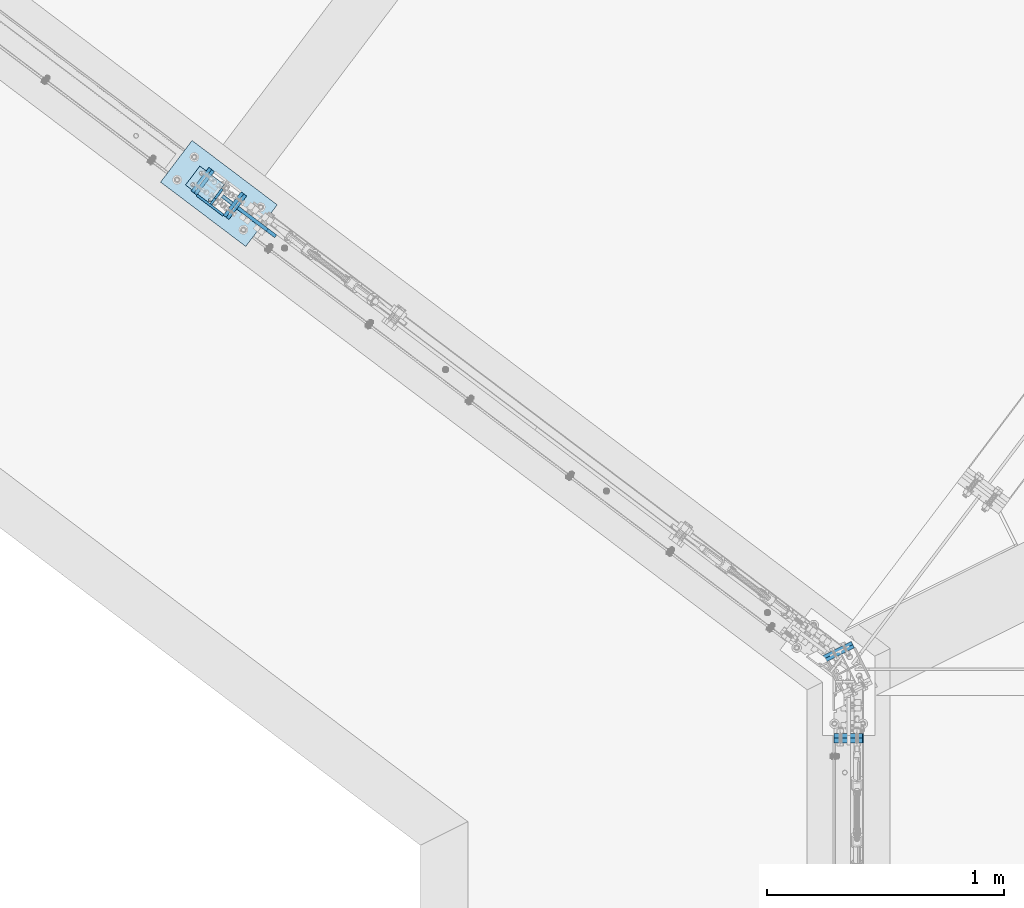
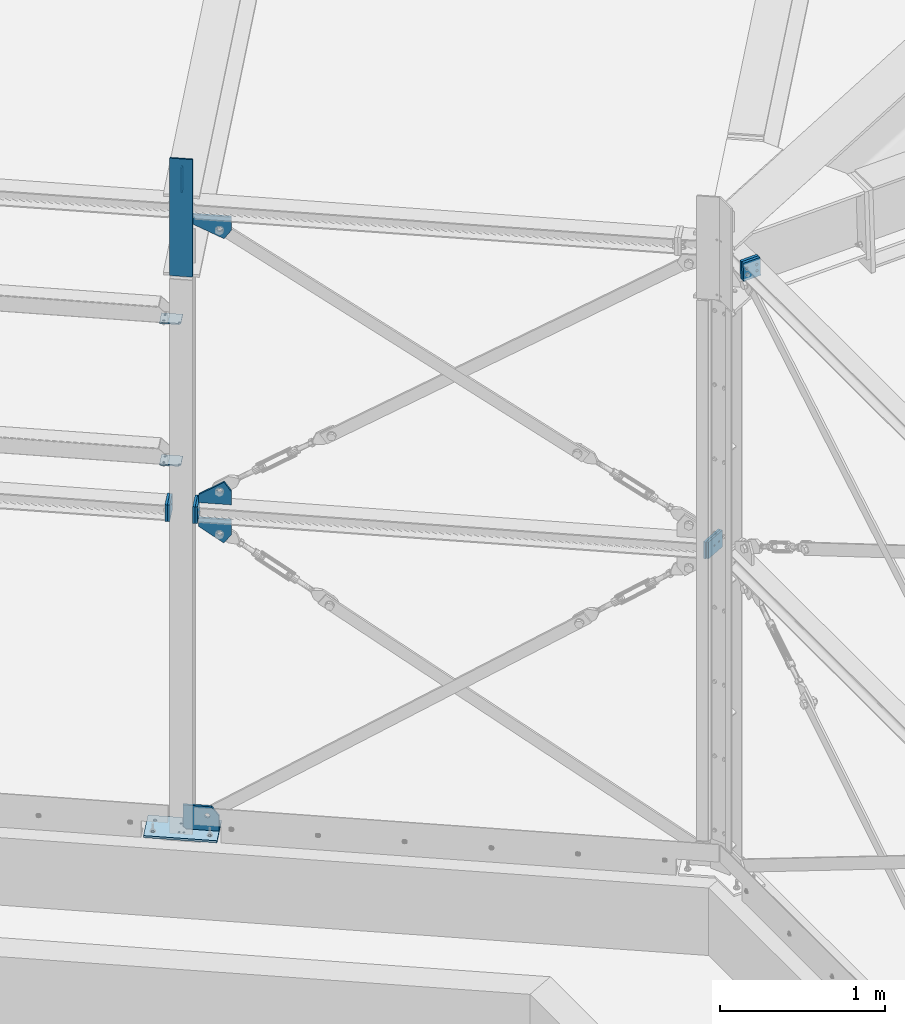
# One storey, part 49 of 476: 17 plates, 55 openings.
"""IFC2X3 building model written with IfcOpenShell, lengths in millimetres."""

import ifcopenshell
import ifcopenshell.guid

model = None  # the IFC model being written
_history = None  # IfcOwnerHistory: only IFC2X3 demands one
_inside = {}  # id of a spatial element -> (the spatial element, [elements in it])
_under = {}  # id of a project, library or spatial element -> (it, [spatial elements below it])
_declared = {}  # id of a project -> (the project, [libraries it declares])
_typed = {}  # id of a type object -> (the type object, [elements of that type])
_made_of = {}  # id of a material, layer set ... -> (it, [elements and type objects made of it])


def new_model(schema):
    """Start an empty IFC model of exactly this schema.

    Asked for "IFC4X3", IfcOpenShell would pick the latest addendum, in which some entities
    have other attributes; the version numbers below select the first issue.
    IFC2X3 requires an IfcOwnerHistory on every rooted entity: one is made here for all.
    """
    global model, _history
    if schema == "IFC4X3":
        model = ifcopenshell.file(schema_version=(4, 3, 0, 0))
    else:
        model = ifcopenshell.file(schema=schema)
    _inside.clear()
    _under.clear()
    _declared.clear()
    _typed.clear()
    _made_of.clear()
    _history = None
    if model.schema == "IFC2X3":
        org = make("IfcOrganization", Name="unknown")
        user = make(
            "IfcPersonAndOrganization",
            ThePerson=make("IfcPerson", FamilyName="unknown"),
            TheOrganization=org,
        )
        app = make(
            "IfcApplication",
            ApplicationDeveloper=org,
            Version="unknown",
            ApplicationFullName="unknown",
            ApplicationIdentifier="unknown",
        )
        _history = make(
            "IfcOwnerHistory",
            OwningUser=user,
            OwningApplication=app,
            ChangeAction="ADDED",
            CreationDate=0,
        )
    return model


def make(cls, **values):
    """One entity of the class cls with the attributes given. An attribute that is None is left unset."""
    return model.create_entity(
        cls, **{name: value for name, value in values.items() if value is not None}
    )


def entity(cls, *values):
    """Any entity or typed value of the class cls, its attributes in the order of the schema. None: left unset."""
    e = model.create_entity(cls)
    for i, value in enumerate(values):
        if value is not None:
            e[i] = value
    return e


def rooted(cls, **values):
    """An entity with a GlobalId (a new one), such as an element, a storey or a relation."""
    return make(cls, GlobalId=ifcopenshell.guid.new(), OwnerHistory=_history, **values)


def si_unit(unit_type, name, prefix=None):
    """IfcSIUnit, for example si_unit("LENGTHUNIT", "METRE", prefix="MILLI")."""
    return make("IfcSIUnit", UnitType=unit_type, Prefix=prefix, Name=name)


def converted_unit(unit_type, name, factor, base, dimensions=None, offset=None):
    """IfcConversionBasedUnit, such as the inch: factor (a typed value) times the base unit."""
    return make(
        "IfcConversionBasedUnit"
        if offset is None
        else "IfcConversionBasedUnitWithOffset",
        ConversionOffset=offset,
        Dimensions=None
        if dimensions is None
        else entity("IfcDimensionalExponents", *dimensions),
        UnitType=unit_type,
        Name=name,
        ConversionFactor=make(
            "IfcMeasureWithUnit", ValueComponent=factor, UnitComponent=base
        ),
    )


def assignment(units):
    """IfcUnitAssignment: the units of a project."""
    return None if units is None else make("IfcUnitAssignment", Units=units)


def point(xyz):
    """IfcCartesianPoint."""
    return None if xyz is None else make("IfcCartesianPoint", Coordinates=xyz)


def direction(xyz):
    """IfcDirection."""
    return None if xyz is None else make("IfcDirection", DirectionRatios=xyz)


def frame(location, z_axis=None, x_axis=None):
    """IfcAxis2Placement3D, a coordinate frame: its origin and axes. An axis left out is left unset."""
    return make(
        "IfcAxis2Placement3D",
        Location=point(location),
        Axis=direction(z_axis),
        RefDirection=direction(x_axis),
    )


def frame_2d(location, x_axis=None):
    """IfcAxis2Placement2D, a coordinate frame in the plane: its origin and x axis."""
    return make(
        "IfcAxis2Placement2D", Location=point(location), RefDirection=direction(x_axis)
    )


def origin():
    """The frame at (0, 0, 0) with its axes left unset."""
    return frame((0.0, 0.0, 0.0))


def origin_with_axes():
    """The frame at (0, 0, 0) with the z axis (0, 0, 1) and the x axis (1, 0, 0) written out."""
    return frame((0.0, 0.0, 0.0), z_axis=(0.0, 0.0, 1.0), x_axis=(1.0, 0.0, 0.0))


def origin_2d_with_axis():
    """The frame at (0, 0) in the plane with the x axis (1, 0) written out."""
    return frame_2d((0.0, 0.0), x_axis=(1.0, 0.0))


def place(relative_to, where):
    """IfcLocalPlacement: puts the frame where relative to a parent placement (None: the world)."""
    return make(
        "IfcLocalPlacement", PlacementRelTo=relative_to, RelativePlacement=where
    )


def context(
    kind, dimensions, precision=None, world=None, true_north=None, identifier=None
):
    """IfcGeometricRepresentationContext, for example the 3D "Model" context."""
    return make(
        "IfcGeometricRepresentationContext",
        ContextIdentifier=identifier,
        ContextType=kind,
        CoordinateSpaceDimension=dimensions,
        Precision=precision,
        WorldCoordinateSystem=world,
        TrueNorth=true_north,
    )


def project(units=None, contexts=None):
    """IfcProject with its units and contexts."""
    return rooted(
        "IfcProject",
        Name="project",
        RepresentationContexts=contexts,
        UnitsInContext=assignment(units),
    )


def spatial(cls, under=None, at=None, **own):
    """A site, building, storey or space (cls), placed at a placement, below another one or the project."""
    s = rooted(cls, ObjectPlacement=at, **own)
    if under is not None:
        _under.setdefault(under.id(), (under, []))[1].append(s)
    return s


def polyline(points):
    """IfcPolyline through the points."""
    return make("IfcPolyline", Points=[point(p) for p in points])


def circle_curve(where, radius):
    """IfcCircle in the frame where."""
    return make("IfcCircle", Position=where, Radius=radius)


def line_curve(start, along, magnitude):
    """IfcLine from a point along a vector."""
    return make(
        "IfcLine",
        Pnt=point(start),
        Dir=make("IfcVector", Orientation=direction(along), Magnitude=magnitude),
    )


def trimmed(basis, trim1, trim2, sense, master):
    """IfcTrimmedCurve: the piece of a basis curve between two trims."""
    return make(
        "IfcTrimmedCurve",
        BasisCurve=basis,
        Trim1=trim1,
        Trim2=trim2,
        SenseAgreement=sense,
        MasterRepresentation=master,
    )


def segment(curve, same_sense, transition):
    """IfcCompositeCurveSegment."""
    return make(
        "IfcCompositeCurveSegment",
        Transition=transition,
        SameSense=same_sense,
        ParentCurve=curve,
    )


def composite_curve(segments, self_intersect=None):
    """IfcCompositeCurve: segments joined end to end."""
    return make("IfcCompositeCurve", Segments=segments, SelfIntersect=self_intersect)


def profile(cls, at=None, kind="AREA", **sizes):
    """A parametric profile (cls). Its sizes go by their IFC names, for example OverallWidth=200.0."""
    return make(cls, ProfileType=kind, Position=at, **sizes)


def circle(**sizes):
    """IfcCircleProfileDef."""
    return profile("IfcCircleProfileDef", **sizes)


def outline(outer, holes=None, kind="AREA"):
    """IfcArbitraryClosedProfileDef: a profile drawn as a closed curve; with holes, ...WithVoids."""
    if holes is None:
        return make("IfcArbitraryClosedProfileDef", ProfileType=kind, OuterCurve=outer)
    return make(
        "IfcArbitraryProfileDefWithVoids",
        ProfileType=kind,
        OuterCurve=outer,
        InnerCurves=holes,
    )


def extrude(swept, where, along, depth):
    """IfcExtrudedAreaSolid: the profile swept, set in the frame where, extruded along a direction by depth."""
    return make(
        "IfcExtrudedAreaSolid",
        SweptArea=swept,
        Position=where,
        ExtrudedDirection=direction(along),
        Depth=depth,
    )


def shape(context_of_items, identifier, shape_type, items):
    """IfcShapeRepresentation: the items that make up one representation, for example the "Body"."""
    return make(
        "IfcShapeRepresentation",
        ContextOfItems=context_of_items,
        RepresentationIdentifier=identifier,
        RepresentationType=shape_type,
        Items=items,
    )


def material(Name=None, Category=None):
    """IfcMaterial."""
    return make("IfcMaterial", Name=Name, Category=Category)


def layer(
    of_material, thickness, ventilated=None, Name=None, Category=None, Priority=None
):
    """IfcMaterialLayer: one layer of a wall or slab, of a material (None: an air gap)."""
    return make(
        "IfcMaterialLayer",
        Material=of_material,
        LayerThickness=thickness,
        IsVentilated=ventilated,
        Name=Name,
        Category=Category,
        Priority=Priority,
    )


def layer_set(layers, Name=None):
    """IfcMaterialLayerSet."""
    return make("IfcMaterialLayerSet", MaterialLayers=layers, LayerSetName=Name)


def made_of(thing, what):
    """Note that an element or type object is made of a material, layer set ...; save() writes the relation."""
    if what is not None:
        _made_of.setdefault(what.id(), (what, []))[1].append(thing)
    return thing


def element(
    cls,
    number,
    at=None,
    inside=None,
    cuts=None,
    type_object=None,
    material=None,
    context=None,
    identifier="Body",
    shape_type=None,
    held_by="IfcProductDefinitionShape",
    body=None,
    shapes=None,
    **own,
):
    """One element of the class cls, such as IfcWall. Its Tag is "e" and its number.

    at: its placement. inside: the storey or other place that contains it. cuts: it is an
    opening in that element (IfcRelVoidsElement). A single representation is given by context,
    identifier, shape_type and body (its items); several are given by shapes. held_by: the class
    of the entity that holds the representations. save() writes the other relations.
    """
    e = rooted(cls, Tag="e%d" % number, ObjectPlacement=at, **own)
    if body is not None:
        shapes = [shape(context, identifier, shape_type, body)]
    if shapes is not None:
        e.Representation = make(held_by, Representations=shapes)
    if inside is not None:
        _inside.setdefault(inside.id(), (inside, []))[1].append(e)
    if cuts is not None:
        rooted(
            "IfcRelVoidsElement", RelatingBuildingElement=cuts, RelatedOpeningElement=e
        )
    if type_object is not None:
        _typed.setdefault(type_object.id(), (type_object, []))[1].append(e)
    return made_of(e, material)


def aggregate(whole, parts):
    """IfcRelAggregates: a whole, such as a stair, and the parts it consists of."""
    return rooted("IfcRelAggregates", RelatingObject=whole, RelatedObjects=parts)


def save(model, path):
    """Write the relations noted so far, then the file.

    IfcRelAggregates (storeys below a building ...), IfcRelContainedInSpatialStructure (elements
    in a storey), IfcRelDefinesByType, IfcRelAssociatesMaterial and IfcRelDeclares: one each for
    every whole, place, type object, material and project.
    """
    for whole, parts in _under.values():
        aggregate(whole, parts)
    for where, things in _inside.values():
        rooted(
            "IfcRelContainedInSpatialStructure",
            RelatedElements=things,
            RelatingStructure=where,
        )
    for kind, things in _typed.values():
        rooted("IfcRelDefinesByType", RelatedObjects=things, RelatingType=kind)
    for what, things in _made_of.values():
        rooted("IfcRelAssociatesMaterial", RelatedObjects=things, RelatingMaterial=what)
    for by, libraries in _declared.values():
        rooted("IfcRelDeclares", RelatingContext=by, RelatedDefinitions=libraries)
    model.write(path)


model = new_model("IFC2X3")

# Units and contexts
model_context = context("Model", 3, precision=1e-09, world=origin_with_axes())
ifc_project = project(units=[si_unit("LENGTHUNIT", "METRE", prefix="MILLI"), si_unit("AREAUNIT", "SQUARE_METRE"), si_unit("VOLUMEUNIT", "CUBIC_METRE"), converted_unit("PLANEANGLEUNIT", "DEGREE", entity("IfcPlaneAngleMeasure", 0.01745329), si_unit("PLANEANGLEUNIT", "RADIAN"), dimensions=[0, 0, 0, 0, 0, 0, 0])], contexts=[model_context])

# Site, building, storey
site_placement = place(None, origin_with_axes())
site = spatial("IfcSite", under=ifc_project, at=site_placement, Name="mKR Teilneubau & Sanierung BA1 - Ostfildern", CompositionType="ELEMENT")
building_placement = place(site_placement, origin_with_axes())
building = spatial("IfcBuilding", under=site, at=building_placement, Name="Struktur 1", CompositionType="ELEMENT")
storey_placement = place(building_placement, origin_with_axes())
storey = spatial("IfcBuildingStorey", under=building, at=storey_placement, Name="Default Storey", CompositionType="ELEMENT", Elevation=0.0)

# Plate, openings
ifc_material = material(Name="S235JR")
ifc_layer_1 = layer(ifc_material, 10.0)
ifc_layer_set_1 = layer_set([ifc_layer_1], Name="S235JR")
plate_1_placement = place(None, frame((5529.694449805, -3928.160845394, 5472.548796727), z_axis=(0.798017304, -0.602634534, 0.0), x_axis=(-0.602634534, -0.798017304, 0.0)))
plate_1 = element("IfcPlate", 1, at=plate_1_placement, inside=storey, material=ifc_layer_set_1, Name="-", ObjectType="-", context=model_context, shape_type="SweptSolid", body=[
    extrude(outline(polyline([(0.0, 0.0), (80.0, 0.0), (80.0, 200.0), (0.0, 197.595559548), (0.0, 0.0)])), origin_with_axes(), (0.0, 0.0, -1.0), 10.0),
])
opening_1_placement = place(plate_1_placement, frame((0.0, 0.0, 0.01), z_axis=(0.0, 0.0, 1.0), x_axis=(1.0, 0.0, 0.0)))
element("IfcOpeningElement", 2, at=opening_1_placement, cuts=plate_1, ObjectType="Opening", context=model_context, shape_type="SweptSolid", body=[
    extrude(outline(polyline([(0.0, 0.0), (50.0, 0.0), (0.0, 50.0), (0.0, 0.0)])), origin(), (0.0, 0.0, -1.0), 10.02),
])
opening_2_placement = place(plate_1_placement, frame((80.0, 200.0, 0.01), z_axis=(0.0, 0.0, 1.0), x_axis=(-0.999548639, -0.03004194, 0.0)))
element("IfcOpeningElement", 3, at=opening_2_placement, cuts=plate_1, ObjectType="Opening", context=model_context, shape_type="SweptSolid", body=[
    extrude(outline(polyline([(0.0, 0.0), (20.0, 0.0), (0.600838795, 19.990972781), (0.0, 0.0)])), origin(), (0.0, 0.0, -1.0), 10.02),
])

plate_2_placement = place(None, frame((5366.783206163, -3905.356422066, 3270.0), z_axis=(0.0, 0.0, 1.0), x_axis=(0.797941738, -0.602734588, 0.0)))
plate_2 = element("IfcPlate", 4, at=plate_2_placement, inside=storey, material=ifc_layer_set_1, Name="-", ObjectType="-", context=model_context, shape_type="SweptSolid", body=[
    extrude(outline(polyline([(5.0, 0.0), (135.0, 0.0), (135.0, 100.0), (5.0, 100.0), (5.0, 0.0)])), origin_with_axes(), (0.0, 0.0, -1.0), 10.0),
])
opening_3_placement = place(plate_2_placement, frame((135.0, 0.0, 0.01), z_axis=(0.0, 0.0, 1.0), x_axis=(0.0, 1.0, 0.0)))
element("IfcOpeningElement", 5, at=opening_3_placement, cuts=plate_2, ObjectType="Opening", context=model_context, shape_type="SweptSolid", body=[
    extrude(outline(composite_curve([segment(trimmed(line_curve((0.0, 0.0), (1.0, 0.0), 13.0), [point((0.0, 0.0))], [point((13.0, 0.0))], True, "CARTESIAN"), True, "CONTINUOUS"), segment(trimmed(circle_curve(frame_2d((13.0, 13.0), x_axis=(-1.0, 0.0)), 13.0), [point((13.0, 0.0))], [point((0.0, 13.0))], False, "CARTESIAN"), True, "CONTINUOUS"), segment(trimmed(line_curve((0.0, 13.0), (0.0, -1.0), 13.0), [point((0.0, 13.0))], [point((0.0, 0.0))], True, "CARTESIAN"), True, "CONTINUOUS")], self_intersect=False)), origin(), (0.0, 0.0, -1.0), 10.02),
])
opening_4_placement = place(plate_2_placement, frame((124.0, 15.501, 0.5), z_axis=(0.0, 0.0, 1.0), x_axis=(1.0, 0.0, 0.0)))
element("IfcOpeningElement", 6, at=opening_4_placement, cuts=plate_2, ObjectType="Opening", context=model_context, shape_type="SweptSolid", body=[
    extrude(circle(Radius=5.001, at=frame_2d((0.0, -5.001), x_axis=(1.0, 0.0))), origin(), (0.0, 0.0, -1.0), 11.0),
])
opening_5_placement = place(plate_2_placement, frame((35.751, 80.0, -10.5), z_axis=(0.0, 0.0, -1.0), x_axis=(-1.0, 0.0, 0.0)))
element("IfcOpeningElement", 7, at=opening_5_placement, cuts=plate_2, ObjectType="Opening", context=model_context, shape_type="SweptSolid", body=[
    extrude(circle(Radius=7.001, at=frame_2d((7.001, 0.0), x_axis=(1.0, 0.0))), origin(), (0.0, 0.0, -1.0), 11.0),
])
opening_6_placement = place(plate_2_placement, frame((35.751, 20.0, -10.5), z_axis=(0.0, 0.0, -1.0), x_axis=(-1.0, 0.0, 0.0)))
element("IfcOpeningElement", 8, at=opening_6_placement, cuts=plate_2, ObjectType="Opening", context=model_context, shape_type="SweptSolid", body=[
    extrude(circle(Radius=7.001, at=frame_2d((7.001, 0.0), x_axis=(1.0, 0.0))), origin(), (0.0, 0.0, -1.0), 11.0),
])

plate_3_placement = place(None, frame((5366.783206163, -3905.356422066, 4320.0), z_axis=(0.0, 0.0, 1.0), x_axis=(0.797941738, -0.602734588, 0.0)))
plate_3 = element("IfcPlate", 9, at=plate_3_placement, inside=storey, material=ifc_layer_set_1, Name="-", ObjectType="-", context=model_context, shape_type="SweptSolid", body=[
    extrude(outline(polyline([(5.0, 0.0), (135.0, 0.0), (135.0, 100.0), (5.0, 100.0), (5.0, 0.0)])), origin_with_axes(), (0.0, 0.0, -1.0), 10.0),
])
opening_7_placement = place(plate_3_placement, frame((135.0, 0.0, 0.01), z_axis=(0.0, 0.0, 1.0), x_axis=(0.0, 1.0, 0.0)))
element("IfcOpeningElement", 10, at=opening_7_placement, cuts=plate_3, ObjectType="Opening", context=model_context, shape_type="SweptSolid", body=[
    extrude(outline(composite_curve([segment(trimmed(line_curve((0.0, 0.0), (1.0, 0.0), 13.0), [point((0.0, 0.0))], [point((13.0, 0.0))], True, "CARTESIAN"), True, "CONTINUOUS"), segment(trimmed(circle_curve(frame_2d((13.0, 13.0), x_axis=(-1.0, 0.0)), 13.0), [point((13.0, 0.0))], [point((0.0, 13.0))], False, "CARTESIAN"), True, "CONTINUOUS"), segment(trimmed(line_curve((0.0, 13.0), (0.0, -1.0), 13.0), [point((0.0, 13.0))], [point((0.0, 0.0))], True, "CARTESIAN"), True, "CONTINUOUS")], self_intersect=False)), origin(), (0.0, 0.0, -1.0), 10.02),
])
opening_8_placement = place(plate_3_placement, frame((124.0, 15.501, 0.5), z_axis=(0.0, 0.0, 1.0), x_axis=(1.0, 0.0, 0.0)))
element("IfcOpeningElement", 11, at=opening_8_placement, cuts=plate_3, ObjectType="Opening", context=model_context, shape_type="SweptSolid", body=[
    extrude(circle(Radius=5.001, at=frame_2d((0.0, -5.001), x_axis=(1.0, 0.0))), origin(), (0.0, 0.0, -1.0), 11.0),
])
opening_9_placement = place(plate_3_placement, frame((35.751, 80.0, -10.5), z_axis=(0.0, 0.0, -1.0), x_axis=(-1.0, 0.0, 0.0)))
element("IfcOpeningElement", 12, at=opening_9_placement, cuts=plate_3, ObjectType="Opening", context=model_context, shape_type="SweptSolid", body=[
    extrude(circle(Radius=7.001, at=frame_2d((7.001, 0.0), x_axis=(1.0, 0.0))), origin(), (0.0, 0.0, -1.0), 11.0),
])
opening_10_placement = place(plate_3_placement, frame((35.751, 20.0, -10.5), z_axis=(0.0, 0.0, -1.0), x_axis=(-1.0, 0.0, 0.0)))
element("IfcOpeningElement", 13, at=opening_10_placement, cuts=plate_3, ObjectType="Opening", context=model_context, shape_type="SweptSolid", body=[
    extrude(circle(Radius=7.001, at=frame_2d((7.001, 0.0), x_axis=(1.0, 0.0))), origin(), (0.0, 0.0, -1.0), 11.0),
])

# Plate, opening
ifc_layer_2 = layer(ifc_material, 15.0)
ifc_layer_set_2 = layer_set([ifc_layer_2], Name="S235JR")
plate_4_placement = place(None, frame((5586.825384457, -4010.160223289, 3027.763476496), z_axis=(0.602734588, 0.797941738, 0.0), x_axis=(0.661365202, -0.499569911, 0.559487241)))
plate_4 = element("IfcPlate", 14, at=plate_4_placement, inside=storey, material=ifc_layer_set_2, Name="-", ObjectType="-", context=model_context, shape_type="SweptSolid", body=[
    extrude(outline(polyline([(0.0, 0.0), (187.299380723, 0.0), (187.299374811, 79.999999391), (132.890377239, 160.602907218), (-32.877428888, 48.705501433), (0.0, 0.0)])), origin_with_axes(), (0.0, 0.0, 1.0), 15.0),
])
opening_11_placement = place(plate_4_placement, frame((127.299378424, 39.999999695, 15.5), z_axis=(0.0, 0.0, -1.0), x_axis=(0.828838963, 0.559487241, 0.0)))
element("IfcOpeningElement", 15, at=opening_11_placement, cuts=plate_4, ObjectType="Opening", context=model_context, shape_type="SweptSolid", body=[
    extrude(circle(Radius=16.001, at=origin_2d_with_axis()), origin(), (0.0, 0.0, 1.0), 16.0),
])

plate_5_placement = place(None, frame((5595.866404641, -3998.191098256, 2791.74088323), z_axis=(-0.602734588, -0.797941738, 0.0), x_axis=(0.650125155, -0.49107961, -0.579808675)))
plate_5 = element("IfcPlate", 16, at=plate_5_placement, inside=storey, material=ifc_layer_set_2, Name="-", ObjectType="-", context=model_context, shape_type="SweptSolid", body=[
    extrude(outline(polyline([(0.0, 0.0), (188.542254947, 0.0), (188.542253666, 80.0), (126.27234637, 167.502267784), (-36.678200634, 51.540574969), (0.0, 0.0)])), origin_with_axes(), (0.0, 0.0, 1.0), 15.0),
])
opening_12_placement = place(plate_5_placement, frame((128.542254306, 40.000000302, -0.5), z_axis=(0.0, 0.0, 1.0), x_axis=(0.814752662, 0.579808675, 0.0)))
element("IfcOpeningElement", 17, at=opening_12_placement, cuts=plate_5, ObjectType="Opening", context=model_context, shape_type="SweptSolid", body=[
    extrude(circle(Radius=16.001, at=origin_2d_with_axis()), origin(), (0.0, 0.0, 1.0), 16.0),
])

# Plate, openings
plate_6_placement = place(None, frame((5509.225133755, -3951.543168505, 545.0), z_axis=(0.602734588, 0.797941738, 0.0), x_axis=(0.0, 0.0, 1.0)))
plate_6 = element("IfcPlate", 18, at=plate_6_placement, inside=storey, material=ifc_layer_set_2, Name="-", ObjectType="-", context=model_context, shape_type="SweptSolid", body=[
    extrude(outline(polyline([(0.0, 0.0), (176.204063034, 0.0), (176.204056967, 175.865324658), (111.023841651, 222.250015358), (1.3734e-05, 222.250012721), (0.0, 0.0)])), origin_with_axes(), (0.0, 0.0, 1.0), 15.0),
])
opening_13_placement = place(plate_6_placement, frame((0.0, 0.0, -0.01), z_axis=(0.0, 0.0, 1.0), x_axis=(1.0, 0.0, 0.0)))
element("IfcOpeningElement", 19, at=opening_13_placement, cuts=plate_6, ObjectType="Opening", context=model_context, shape_type="SweptSolid", body=[
    extrude(outline(polyline([(0.0, 0.0), (20.0, 0.0), (1.236e-06, 20.0), (0.0, 0.0)])), origin(), (0.0, 0.0, 1.0), 15.02),
])
opening_14_placement = place(plate_6_placement, frame((108.825424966, 150.172513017, 15.5), z_axis=(0.0, 0.0, -1.0), x_axis=(0.0, 1.0, 0.0)))
element("IfcOpeningElement", 20, at=opening_14_placement, cuts=plate_6, ObjectType="Opening", context=model_context, shape_type="SweptSolid", body=[
    extrude(circle(Radius=16.001, at=origin_2d_with_axis()), origin(), (0.0, 0.0, 1.0), 16.0),
])

# Plate, opening
plate_7_placement = place(None, frame((5530.435185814, -3948.766864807, 5100.221211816), z_axis=(-0.602734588, -0.797941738, 0.0), x_axis=(0.0, 0.0, -1.0)))
plate_7 = element("IfcPlate", 21, at=plate_7_placement, inside=storey, material=ifc_layer_set_2, Name="-", ObjectType="-", context=model_context, shape_type="SweptSolid", body=[
    extrude(outline(polyline([(0.0, 0.0), (49.999958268, 0.0), (163.555071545, 237.241031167), (97.247948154, 281.999999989), (-2.2349e-05, 281.999993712), (0.0, 0.0)])), origin_with_axes(), (0.0, 0.0, 1.0), 15.0),
])
opening_15_placement = place(plate_7_placement, frame((96.832290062, 209.890168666, -0.5), z_axis=(0.0, 0.0, 1.0), x_axis=(0.0, 1.0, 0.0)))
element("IfcOpeningElement", 22, at=opening_15_placement, cuts=plate_7, ObjectType="Opening", context=model_context, shape_type="SweptSolid", body=[
    extrude(circle(Radius=16.001, at=origin_2d_with_axis()), origin(), (0.0, 0.0, 1.0), 16.0),
])

# Plate, openings
plate_8_placement = place(None, frame((5398.315188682, -3720.512249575, 545.0), z_axis=(0.0, 0.0, -1.0), x_axis=(0.797941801, -0.602734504, 0.0)))
plate_8 = element("IfcPlate", 23, at=plate_8_placement, inside=storey, material=ifc_layer_set_2, Name="Baseplate", ObjectType="Baseplate", context=model_context, shape_type="SweptSolid", body=[
    extrude(outline(polyline([(0.0, 0.0), (450.0, 0.0), (450.0, 220.0), (0.0, 220.0), (0.0, 0.0)])), origin_with_axes(), (0.0, 0.0, 1.0), 15.0),
])
opening_16_placement = place(plate_8_placement, frame((50.0, 170.0, 15.5), z_axis=(0.0, 0.0, -1.0), x_axis=(1.0, 0.0, 0.0)))
element("IfcOpeningElement", 24, at=opening_16_placement, cuts=plate_8, ObjectType="Opening", context=model_context, shape_type="SweptSolid", body=[
    extrude(circle(Radius=11.001, at=frame_2d((350.0, 120.0), x_axis=(1.0, 0.0))), origin(), (0.0, 0.0, 1.0), 16.0),
])
opening_17_placement = place(plate_8_placement, frame((50.0, 170.0, 15.5), z_axis=(0.0, 0.0, -1.0), x_axis=(1.0, 0.0, 0.0)))
element("IfcOpeningElement", 25, at=opening_17_placement, cuts=plate_8, ObjectType="Opening", context=model_context, shape_type="SweptSolid", body=[
    extrude(circle(Radius=11.001, at=frame_2d((0.0, 120.0), x_axis=(1.0, 0.0))), origin(), (0.0, 0.0, 1.0), 16.0),
])
opening_18_placement = place(plate_8_placement, frame((50.0, 170.0, 15.5), z_axis=(0.0, 0.0, -1.0), x_axis=(1.0, 0.0, 0.0)))
element("IfcOpeningElement", 26, at=opening_18_placement, cuts=plate_8, ObjectType="Opening", context=model_context, shape_type="SweptSolid", body=[
    extrude(circle(Radius=11.001, at=frame_2d((350.0, 0.0), x_axis=(1.0, 0.0))), origin(), (0.0, 0.0, 1.0), 16.0),
])
opening_19_placement = place(plate_8_placement, frame((50.0, 170.0, 15.5), z_axis=(0.0, 0.0, -1.0), x_axis=(1.0, 0.0, 0.0)))
element("IfcOpeningElement", 27, at=opening_19_placement, cuts=plate_8, ObjectType="Opening", context=model_context, shape_type="SweptSolid", body=[
    extrude(circle(Radius=11.001, at=origin_2d_with_axis()), origin(), (0.0, 0.0, 1.0), 16.0),
])
opening_20_placement = place(plate_8_placement, frame((239.75, 156.0, 15.5), z_axis=(0.0, 0.0, -1.0), x_axis=(0.0, 1.0, 0.0)))
element("IfcOpeningElement", 28, at=opening_20_placement, cuts=plate_8, ObjectType="Opening", context=model_context, shape_type="SweptSolid", body=[
    extrude(circle(Radius=6.001, at=origin_2d_with_axis()), origin(), (0.0, 0.0, 1.0), 16.0),
])
opening_21_placement = place(plate_8_placement, frame((239.75, 64.0, 15.5), z_axis=(0.0, 0.0, -1.0), x_axis=(0.0, 1.0, 0.0)))
element("IfcOpeningElement", 29, at=opening_21_placement, cuts=plate_8, ObjectType="Opening", context=model_context, shape_type="SweptSolid", body=[
    extrude(circle(Radius=6.001, at=origin_2d_with_axis()), origin(), (0.0, 0.0, 1.0), 16.0),
])
opening_22_placement = place(plate_8_placement, frame((210.25, 64.0, 15.5), z_axis=(0.0, 0.0, -1.0), x_axis=(0.0, 1.0, 0.0)))
element("IfcOpeningElement", 30, at=opening_22_placement, cuts=plate_8, ObjectType="Opening", context=model_context, shape_type="SweptSolid", body=[
    extrude(circle(Radius=6.001, at=origin_2d_with_axis()), origin(), (0.0, 0.0, 1.0), 16.0),
])
opening_23_placement = place(plate_8_placement, frame((210.25, 156.0, 15.5), z_axis=(0.0, 0.0, -1.0), x_axis=(0.0, 1.0, 0.0)))
element("IfcOpeningElement", 31, at=opening_23_placement, cuts=plate_8, ObjectType="Opening", context=model_context, shape_type="SweptSolid", body=[
    extrude(circle(Radius=6.001, at=origin_2d_with_axis()), origin(), (0.0, 0.0, 1.0), 16.0),
])

plate_9_placement = place(None, frame((5431.756753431, -3883.62814373, 2912.000000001), z_axis=(0.797941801, -0.602734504, 0.0), x_axis=(0.0, 0.0, -1.0)))
plate_9 = element("IfcPlate", 32, at=plate_9_placement, inside=storey, material=ifc_layer_set_2, Name="Endplate#1", ObjectType="Endplate#1", context=model_context, shape_type="SweptSolid", body=[
    extrude(outline(polyline([(-62.0, -62.0), (62.0, -62.0), (62.0, 62.0), (-62.0, 62.0), (-62.0, -62.0)])), origin_with_axes(), (0.0, 0.0, 1.0), 15.0),
])
opening_24_placement = place(plate_9_placement, frame((37.0, -14.5, 15.5), z_axis=(0.0, 0.0, -1.0), x_axis=(1.0, 0.0, 0.0)))
element("IfcOpeningElement", 33, at=opening_24_placement, cuts=plate_9, ObjectType="Opening", context=model_context, shape_type="SweptSolid", body=[
    extrude(circle(Radius=6.001, at=origin_2d_with_axis()), origin(), (0.0, 0.0, 1.0), 16.0),
])
opening_25_placement = place(plate_9_placement, frame((-37.0, -14.5, 15.5), z_axis=(0.0, 0.0, -1.0), x_axis=(1.0, 0.0, 0.0)))
element("IfcOpeningElement", 34, at=opening_25_placement, cuts=plate_9, ObjectType="Opening", context=model_context, shape_type="SweptSolid", body=[
    extrude(circle(Radius=6.001, at=origin_2d_with_axis()), origin(), (0.0, 0.0, 1.0), 16.0),
])
opening_26_placement = place(plate_9_placement, frame((-37.0, 14.5, 15.5), z_axis=(0.0, 0.0, -1.0), x_axis=(1.0, 0.0, 0.0)))
element("IfcOpeningElement", 35, at=opening_26_placement, cuts=plate_9, ObjectType="Opening", context=model_context, shape_type="SweptSolid", body=[
    extrude(circle(Radius=6.001, at=origin_2d_with_axis()), origin(), (0.0, 0.0, 1.0), 16.0),
])
opening_27_placement = place(plate_9_placement, frame((37.0, 14.5, 15.5), z_axis=(0.0, 0.0, -1.0), x_axis=(1.0, 0.0, 0.0)))
element("IfcOpeningElement", 36, at=opening_27_placement, cuts=plate_9, ObjectType="Opening", context=model_context, shape_type="SweptSolid", body=[
    extrude(circle(Radius=6.001, at=origin_2d_with_axis()), origin(), (0.0, 0.0, 1.0), 16.0),
])
opening_28_placement = place(plate_9_placement, frame((0.0, -30.0, 15.5), z_axis=(0.0, 0.0, -1.0), x_axis=(0.0, -1.0, 0.0)))
element("IfcOpeningElement", 37, at=opening_28_placement, cuts=plate_9, ObjectType="Opening", context=model_context, shape_type="SweptSolid", body=[
    extrude(circle(Radius=7.001, at=origin_2d_with_axis()), origin(), (0.0, 0.0, 1.0), 16.0),
])
opening_29_placement = place(plate_9_placement, frame((0.0, 30.0, 15.5), z_axis=(0.0, 0.0, -1.0), x_axis=(-1.0, 0.0, 0.0)))
element("IfcOpeningElement", 38, at=opening_29_placement, cuts=plate_9, ObjectType="Opening", context=model_context, shape_type="SweptSolid", body=[
    extrude(circle(Radius=7.001, at=origin_2d_with_axis()), origin(), (0.0, 0.0, 1.0), 16.0),
])

plate_10_placement = place(None, frame((5455.695372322, -3901.709695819, 2912.000000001), z_axis=(-0.797941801, 0.602734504, 0.0), x_axis=(0.602734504, 0.797941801, 0.0)))
plate_10 = element("IfcPlate", 39, at=plate_10_placement, inside=storey, material=ifc_layer_set_2, Name="T-plate", ObjectType="T-plate", context=model_context, shape_type="SweptSolid", body=[
    extrude(outline(polyline([(-62.0, -62.0), (62.0, -62.0), (62.0, 62.0), (-62.0, 62.0), (-62.0, -62.0)])), origin_with_axes(), (0.0, 0.0, 1.0), 15.0),
])
opening_30_placement = place(plate_10_placement, frame((-30.000605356, 0.0, -0.5), z_axis=(0.0, 0.0, 1.0), x_axis=(-1.0, 0.0, 0.0)))
element("IfcOpeningElement", 40, at=opening_30_placement, cuts=plate_10, ObjectType="Opening", context=model_context, shape_type="SweptSolid", body=[
    extrude(circle(Radius=7.001, at=origin_2d_with_axis()), origin(), (0.0, 0.0, 1.0), 16.0),
])
opening_31_placement = place(plate_10_placement, frame((29.999394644, 0.0, -0.5), z_axis=(0.0, 0.0, 1.0), x_axis=(0.0, -1.0, 0.0)))
element("IfcOpeningElement", 41, at=opening_31_placement, cuts=plate_10, ObjectType="Opening", context=model_context, shape_type="SweptSolid", body=[
    extrude(circle(Radius=7.001, at=origin_2d_with_axis()), origin(), (0.0, 0.0, 1.0), 16.0),
])

plate_11_placement = place(None, frame((5591.345100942, -4004.175061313, 2912.000000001), z_axis=(-0.797941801, 0.602734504, 0.0), x_axis=(0.0, 0.0, -1.0)))
plate_11 = element("IfcPlate", 42, at=plate_11_placement, inside=storey, material=ifc_layer_set_2, Name="Endplate#1", ObjectType="Endplate#1", context=model_context, shape_type="SweptSolid", body=[
    extrude(outline(polyline([(-62.0, -62.0), (62.0, -62.0), (62.0, 62.0), (-62.0, 62.0), (-62.0, -62.0)])), origin_with_axes(), (0.0, 0.0, 1.0), 15.0),
])
opening_32_placement = place(plate_11_placement, frame((37.0, 14.5, 15.5), z_axis=(0.0, 0.0, -1.0), x_axis=(-1.0, 0.0, 0.0)))
element("IfcOpeningElement", 43, at=opening_32_placement, cuts=plate_11, ObjectType="Opening", context=model_context, shape_type="SweptSolid", body=[
    extrude(circle(Radius=6.001, at=origin_2d_with_axis()), origin(), (0.0, 0.0, 1.0), 16.0),
])
opening_33_placement = place(plate_11_placement, frame((-37.0, 14.5, 15.5), z_axis=(0.0, 0.0, -1.0), x_axis=(-1.0, 0.0, 0.0)))
element("IfcOpeningElement", 44, at=opening_33_placement, cuts=plate_11, ObjectType="Opening", context=model_context, shape_type="SweptSolid", body=[
    extrude(circle(Radius=6.001, at=origin_2d_with_axis()), origin(), (0.0, 0.0, 1.0), 16.0),
])
opening_34_placement = place(plate_11_placement, frame((-37.0, -14.5, 15.5), z_axis=(0.0, 0.0, -1.0), x_axis=(-1.0, 0.0, 0.0)))
element("IfcOpeningElement", 45, at=opening_34_placement, cuts=plate_11, ObjectType="Opening", context=model_context, shape_type="SweptSolid", body=[
    extrude(circle(Radius=6.001, at=origin_2d_with_axis()), origin(), (0.0, 0.0, 1.0), 16.0),
])
opening_35_placement = place(plate_11_placement, frame((37.0, -14.5, 15.5), z_axis=(0.0, 0.0, -1.0), x_axis=(-1.0, 0.0, 0.0)))
element("IfcOpeningElement", 46, at=opening_35_placement, cuts=plate_11, ObjectType="Opening", context=model_context, shape_type="SweptSolid", body=[
    extrude(circle(Radius=6.001, at=origin_2d_with_axis()), origin(), (0.0, 0.0, 1.0), 16.0),
])
opening_36_placement = place(plate_11_placement, frame((0.0, 30.0, 15.5), z_axis=(0.0, 0.0, -1.0), x_axis=(-1.0, 0.0, 0.0)))
element("IfcOpeningElement", 47, at=opening_36_placement, cuts=plate_11, ObjectType="Opening", context=model_context, shape_type="SweptSolid", body=[
    extrude(circle(Radius=7.001, at=origin_2d_with_axis()), origin(), (0.0, 0.0, 1.0), 16.0),
])
opening_37_placement = place(plate_11_placement, frame((0.0, -30.0, 15.5), z_axis=(0.0, 0.0, -1.0), x_axis=(0.0, -1.0, 0.0)))
element("IfcOpeningElement", 48, at=opening_37_placement, cuts=plate_11, ObjectType="Opening", context=model_context, shape_type="SweptSolid", body=[
    extrude(circle(Radius=7.001, at=origin_2d_with_axis()), origin(), (0.0, 0.0, 1.0), 16.0),
])

plate_12_placement = place(None, frame((5567.407224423, -3986.09252642, 2912.000000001), z_axis=(0.797941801, -0.602734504, 0.0), x_axis=(-0.602734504, -0.797941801, 0.0)))
plate_12 = element("IfcPlate", 49, at=plate_12_placement, inside=storey, material=ifc_layer_set_2, Name="T-plate", ObjectType="T-plate", context=model_context, shape_type="SweptSolid", body=[
    extrude(outline(polyline([(-62.0, -62.0), (62.0, -62.0), (62.0, 62.0), (-62.0, 62.0), (-62.0, -62.0)])), origin_with_axes(), (0.0, 0.0, 1.0), 15.0),
])
opening_38_placement = place(plate_12_placement, frame((-29.999373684, 0.0, -0.5), z_axis=(0.0, 0.0, 1.0), x_axis=(-1.0, 0.0, 0.0)))
element("IfcOpeningElement", 50, at=opening_38_placement, cuts=plate_12, ObjectType="Opening", context=model_context, shape_type="SweptSolid", body=[
    extrude(circle(Radius=7.001, at=origin_2d_with_axis()), origin(), (0.0, 0.0, 1.0), 16.0),
])
opening_39_placement = place(plate_12_placement, frame((30.000626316, 0.0, -0.5), z_axis=(0.0, 0.0, 1.0), x_axis=(0.0, -1.0, 0.0)))
element("IfcOpeningElement", 51, at=opening_39_placement, cuts=plate_12, ObjectType="Opening", context=model_context, shape_type="SweptSolid", body=[
    extrude(circle(Radius=7.001, at=origin_2d_with_axis()), origin(), (0.0, 0.0, 1.0), 16.0),
])

# Plate
plate_13_placement = place(None, frame((5421.64087283, -3946.79340756, 4677.27785786), z_axis=(-0.602734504, -0.797941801, 0.0), x_axis=(0.797941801, -0.602734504, 0.0)))
element("IfcPlate", 52, at=plate_13_placement, inside=storey, material=ifc_layer_set_1, Name="Coverplate", ObjectType="Coverplate", context=model_context, shape_type="SweptSolid", body=[
    extrude(outline(polyline([(0.0, 0.0), (140.0, 0.0), (140.0, 870.270938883), (0.0, 870.270938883), (0.0, 0.0)])), origin_with_axes(), (0.0, 0.0, 1.0), 10.0),
])

# Plate, openings
ifc_layer_3 = layer(ifc_material, 20.0)
ifc_layer_set_3 = layer_set([ifc_layer_3], Name="S235JR")
plate_14_placement = place(None, frame((8165.608780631, -6238.67387897, 5157.22121182), z_axis=(0.0, -1.0, 0.0), x_axis=(-0.030041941, 0.0, 0.999548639)))
plate_14 = element("IfcPlate", 53, at=plate_14_placement, inside=storey, material=ifc_layer_set_3, Name="Endplate#1", ObjectType="Endplate#1", context=model_context, shape_type="SweptSolid", body=[
    extrude(outline(polyline([(-67.5, -60.0), (67.5, -60.0), (67.5, 60.0), (-67.5, 60.0), (-67.5, -60.0)])), origin_with_axes(), (0.0, 0.0, 1.0), 20.0),
])
opening_40_placement = place(plate_14_placement, frame((0.0, -35.0, -0.5), z_axis=(0.0, 0.0, 1.0), x_axis=(0.0, -1.0, 0.0)))
element("IfcOpeningElement", 54, at=opening_40_placement, cuts=plate_14, ObjectType="Opening", context=model_context, shape_type="SweptSolid", body=[
    extrude(circle(Radius=9.001, at=frame_2d((0.0, 22.5), x_axis=(1.0, 0.0))), origin(), (0.0, 0.0, 1.0), 21.0),
])
opening_41_placement = place(plate_14_placement, frame((0.0, -35.0, -0.5), z_axis=(0.0, 0.0, 1.0), x_axis=(0.0, -1.0, 0.0)))
element("IfcOpeningElement", 55, at=opening_41_placement, cuts=plate_14, ObjectType="Opening", context=model_context, shape_type="SweptSolid", body=[
    extrude(circle(Radius=9.001, at=frame_2d((0.0, -22.5), x_axis=(1.0, 0.0))), origin(), (0.0, 0.0, 1.0), 21.0),
])
opening_42_placement = place(plate_14_placement, frame((0.0, 35.0, -0.5), z_axis=(0.0, 0.0, 1.0), x_axis=(0.0, -1.0, 0.0)))
element("IfcOpeningElement", 56, at=opening_42_placement, cuts=plate_14, ObjectType="Opening", context=model_context, shape_type="SweptSolid", body=[
    extrude(circle(Radius=9.001, at=frame_2d((0.0, 22.5), x_axis=(1.0, 0.0))), origin(), (0.0, 0.0, 1.0), 21.0),
])
opening_43_placement = place(plate_14_placement, frame((0.0, 35.0, -0.5), z_axis=(0.0, 0.0, 1.0), x_axis=(0.0, -1.0, 0.0)))
element("IfcOpeningElement", 57, at=opening_43_placement, cuts=plate_14, ObjectType="Opening", context=model_context, shape_type="SweptSolid", body=[
    extrude(circle(Radius=9.001, at=frame_2d((0.0, -22.5), x_axis=(1.0, 0.0))), origin(), (0.0, 0.0, 1.0), 21.0),
])

plate_15_placement = place(None, frame((8165.608780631, -6218.67387897, 5157.22121182), z_axis=(0.0, -1.0, 0.0), x_axis=(-0.030041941, 0.0, 0.999548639)))
plate_15 = element("IfcPlate", 58, at=plate_15_placement, inside=storey, material=ifc_layer_set_3, Name="Endplate#2", ObjectType="Endplate#2", context=model_context, shape_type="SweptSolid", body=[
    extrude(outline(polyline([(-67.5, -60.0), (67.5, -60.0), (67.5, 60.0), (-67.5, 60.0), (-67.5, -60.0)])), origin_with_axes(), (0.0, 0.0, 1.0), 20.0),
])
opening_44_placement = place(plate_15_placement, frame((0.0, 35.0, -0.5), z_axis=(0.0, 0.0, 1.0), x_axis=(0.0, -1.0, 0.0)))
element("IfcOpeningElement", 59, at=opening_44_placement, cuts=plate_15, ObjectType="Opening", context=model_context, shape_type="SweptSolid", body=[
    extrude(circle(Radius=9.001, at=frame_2d((0.0, 22.5), x_axis=(1.0, 0.0))), origin(), (0.0, 0.0, 1.0), 21.0),
])
opening_45_placement = place(plate_15_placement, frame((0.0, 35.0, -0.5), z_axis=(0.0, 0.0, 1.0), x_axis=(0.0, -1.0, 0.0)))
element("IfcOpeningElement", 60, at=opening_45_placement, cuts=plate_15, ObjectType="Opening", context=model_context, shape_type="SweptSolid", body=[
    extrude(circle(Radius=9.001, at=frame_2d((0.0, -22.5), x_axis=(1.0, 0.0))), origin(), (0.0, 0.0, 1.0), 21.0),
])
opening_46_placement = place(plate_15_placement, frame((0.0, -35.0, -0.5), z_axis=(0.0, 0.0, 1.0), x_axis=(0.0, -1.0, 0.0)))
element("IfcOpeningElement", 61, at=opening_46_placement, cuts=plate_15, ObjectType="Opening", context=model_context, shape_type="SweptSolid", body=[
    extrude(circle(Radius=9.001, at=frame_2d((0.0, 22.5), x_axis=(1.0, 0.0))), origin(), (0.0, 0.0, 1.0), 21.0),
])
opening_47_placement = place(plate_15_placement, frame((0.0, -35.0, -0.5), z_axis=(0.0, 0.0, 1.0), x_axis=(0.0, -1.0, 0.0)))
element("IfcOpeningElement", 62, at=opening_47_placement, cuts=plate_15, ObjectType="Opening", context=model_context, shape_type="SweptSolid", body=[
    extrude(circle(Radius=9.001, at=frame_2d((0.0, -22.5), x_axis=(1.0, 0.0))), origin(), (0.0, 0.0, 1.0), 21.0),
])

plate_16_placement = place(None, frame((8102.692311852, -5868.292498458, 2911.999996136), z_axis=(0.445738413, -0.895163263, 0.0), x_axis=(0.0, 0.0, -1.0)))
plate_16 = element("IfcPlate", 63, at=plate_16_placement, inside=storey, material=ifc_layer_set_2, Name="Endplate#1", ObjectType="Endplate#1", context=model_context, shape_type="SweptSolid", body=[
    extrude(outline(polyline([(-61.999996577, -82.491091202), (61.999996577, -82.491091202), (61.999996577, 82.491091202), (-61.999996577, 82.491091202), (-61.999996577, -82.491091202)])), origin_with_axes(), (0.0, 0.0, 1.0), 15.0),
])
opening_48_placement = place(plate_16_placement, frame((36.999996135, -44.080099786, 15.5), z_axis=(0.0, 0.0, -1.0), x_axis=(1.0, 0.0, 0.0)))
element("IfcOpeningElement", 64, at=opening_48_placement, cuts=plate_16, ObjectType="Opening", context=model_context, shape_type="SweptSolid", body=[
    extrude(circle(Radius=6.001, at=origin_2d_with_axis()), origin(), (0.0, 0.0, 1.0), 16.0),
])
opening_49_placement = place(plate_16_placement, frame((-37.000003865, -44.080099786, 15.5), z_axis=(0.0, 0.0, -1.0), x_axis=(1.0, 0.0, 0.0)))
element("IfcOpeningElement", 65, at=opening_49_placement, cuts=plate_16, ObjectType="Opening", context=model_context, shape_type="SweptSolid", body=[
    extrude(circle(Radius=6.001, at=origin_2d_with_axis()), origin(), (0.0, 0.0, 1.0), 16.0),
])
opening_50_placement = place(plate_16_placement, frame((-37.000003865, -14.49487517, 15.5), z_axis=(0.0, 0.0, -1.0), x_axis=(1.0, 0.0, 0.0)))
element("IfcOpeningElement", 66, at=opening_50_placement, cuts=plate_16, ObjectType="Opening", context=model_context, shape_type="SweptSolid", body=[
    extrude(circle(Radius=6.001, at=origin_2d_with_axis()), origin(), (0.0, 0.0, 1.0), 16.0),
])
opening_51_placement = place(plate_16_placement, frame((36.999996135, -14.49487517, 15.5), z_axis=(0.0, 0.0, -1.0), x_axis=(1.0, 0.0, 0.0)))
element("IfcOpeningElement", 67, at=opening_51_placement, cuts=plate_16, ObjectType="Opening", context=model_context, shape_type="SweptSolid", body=[
    extrude(circle(Radius=6.001, at=origin_2d_with_axis()), origin(), (0.0, 0.0, 1.0), 16.0),
])
opening_52_placement = place(plate_16_placement, frame((2.738e-06, 45.745688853, 15.5), z_axis=(0.0, 0.0, -1.0), x_axis=(-1.0, 0.0, 0.0)))
element("IfcOpeningElement", 68, at=opening_52_placement, cuts=plate_16, ObjectType="Opening", context=model_context, shape_type="SweptSolid", body=[
    extrude(circle(Radius=7.001, at=origin_2d_with_axis()), origin(), (0.0, 0.0, 1.0), 16.0),
])
opening_53_placement = place(plate_16_placement, frame((2.738e-06, -4.254311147, 15.5), z_axis=(0.0, 0.0, -1.0), x_axis=(0.0, -1.0, 0.0)))
element("IfcOpeningElement", 69, at=opening_53_placement, cuts=plate_16, ObjectType="Opening", context=model_context, shape_type="SweptSolid", body=[
    extrude(circle(Radius=7.001, at=origin_2d_with_axis()), origin(), (0.0, 0.0, 1.0), 16.0),
])

plate_17_placement = place(None, frame((8120.531315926, -5892.923168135, 2912.000002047), z_axis=(-0.445738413, 0.895163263, 0.0), x_axis=(0.895163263, 0.445738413, -1.32e-07)))
plate_17 = element("IfcPlate", 70, at=plate_17_placement, inside=storey, material=ifc_layer_set_2, Name="T-plate", ObjectType="T-plate", context=model_context, shape_type="SweptSolid", body=[
    extrude(outline(polyline([(-77.501091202, -62.0), (77.501091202, -62.0), (77.501091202, 62.0), (-77.501091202, 62.0), (-77.501091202, -62.0)])), origin_with_axes(), (0.0, 0.0, 1.0), 15.0),
])
opening_54_placement = place(plate_17_placement, frame((-9.24429663, 9.869e-06, -0.5), z_axis=(0.0, 0.0, 1.0), x_axis=(-1.0, 1.32e-07, 0.0)))
element("IfcOpeningElement", 71, at=opening_54_placement, cuts=plate_17, ObjectType="Opening", context=model_context, shape_type="SweptSolid", body=[
    extrude(circle(Radius=7.001, at=origin_2d_with_axis()), origin(), (0.0, 0.0, 1.0), 16.0),
])
opening_55_placement = place(plate_17_placement, frame((40.75570337, 3.27e-06, -0.5), z_axis=(0.0, 0.0, 1.0), x_axis=(-1.32e-07, -1.0, 0.0)))
element("IfcOpeningElement", 72, at=opening_55_placement, cuts=plate_17, ObjectType="Opening", context=model_context, shape_type="SweptSolid", body=[
    extrude(circle(Radius=7.001, at=origin_2d_with_axis()), origin(), (0.0, 0.0, 1.0), 16.0),
])

save(model, "model.ifc")
